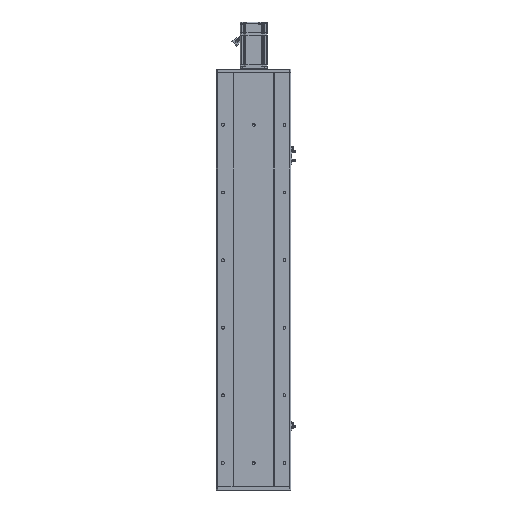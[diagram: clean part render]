
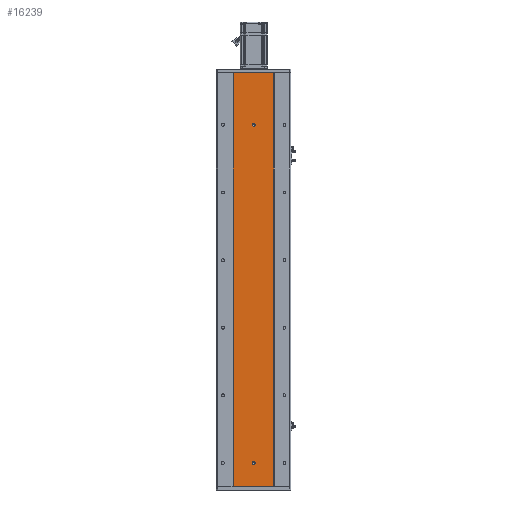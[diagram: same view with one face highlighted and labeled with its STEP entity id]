
A CAD part, front view. The second image highlights one B-rep face of the part: STEP entity #16239.
In plain terms, the highlighted planar face has unit normal (0, -1, 0).
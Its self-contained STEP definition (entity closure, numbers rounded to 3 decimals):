
#96 = EDGE_CURVE ( 'NONE', #29383, #58415, #60200, .T. ) ;
#498 = CARTESIAN_POINT ( 'NONE',  ( -60., 0., 0. ) ) ;
#538 = ORIENTED_EDGE ( 'NONE', *, *, #14519, .F. ) ;
#636 = EDGE_CURVE ( 'NONE', #49667, #14358, #40436, .T. ) ;
#831 = PLANE ( 'NONE',  #38976 ) ;
#1222 = LINE ( 'NONE', #10283, #30692 ) ;
#1851 = AXIS2_PLACEMENT_3D ( 'NONE', #10073, #10506, #67019 ) ;
#2333 = VERTEX_POINT ( 'NONE', #62107 ) ;
#3000 = DIRECTION ( 'NONE',  ( 0., 0., -1. ) ) ;
#3597 = EDGE_LOOP ( 'NONE', ( #47751, #46243 ) ) ;
#5049 = ORIENTED_EDGE ( 'NONE', *, *, #96, .F. ) ;
#5103 = CARTESIAN_POINT ( 'NONE',  ( 60., 0., 0. ) ) ;
#6122 = DIRECTION ( 'NONE',  ( 0., 1., 0. ) ) ;
#7712 = VECTOR ( 'NONE', #58267, 1000. ) ;
#9475 = CARTESIAN_POINT ( 'NONE',  ( 0., 0., 64.5 ) ) ;
#9481 = DIRECTION ( 'NONE',  ( 0., 0., -1. ) ) ;
#10073 = CARTESIAN_POINT ( 'NONE',  ( 0., 0., 1070. ) ) ;
#10283 = CARTESIAN_POINT ( 'NONE',  ( -60., 0., 1224. ) ) ;
#10506 = DIRECTION ( 'NONE',  ( 0., -1., 0. ) ) ;
#10760 = CIRCLE ( 'NONE', #1851, 4. ) ;
#10801 = FACE_BOUND ( 'NONE', #3597, .T. ) ;
#11783 = LINE ( 'NONE', #21668, #7712 ) ;
#12986 = CIRCLE ( 'NONE', #35974, 4. ) ;
#13517 = CARTESIAN_POINT ( 'NONE',  ( 0., 0., 68.5 ) ) ;
#14269 = CARTESIAN_POINT ( 'NONE',  ( -60., 0., 1224. ) ) ;
#14358 = VERTEX_POINT ( 'NONE', #498 ) ;
#14504 = VERTEX_POINT ( 'NONE', #22677 ) ;
#14519 = EDGE_CURVE ( 'NONE', #2333, #67925, #23499, .T. ) ;
#15250 = VERTEX_POINT ( 'NONE', #59747 ) ;
#16239 = ADVANCED_FACE ( 'NONE', ( #10801, #17262, #51871 ), #831, .F. ) ;
#16749 = DIRECTION ( 'NONE',  ( 0., 0., 1. ) ) ;
#17178 = DIRECTION ( 'NONE',  ( 0., -1., 0. ) ) ;
#17262 = FACE_BOUND ( 'NONE', #26833, .T. ) ;
#17464 = CARTESIAN_POINT ( 'NONE',  ( 0., 0., 1074. ) ) ;
#18114 = EDGE_LOOP ( 'NONE', ( #39892, #58264, #63336, #22868 ) ) ;
#19345 = DIRECTION ( 'NONE',  ( 0., 0., -1. ) ) ;
#21095 = CARTESIAN_POINT ( 'NONE',  ( 0., 0., 68.5 ) ) ;
#21668 = CARTESIAN_POINT ( 'NONE',  ( 60., 0., 1224. ) ) ;
#22677 = CARTESIAN_POINT ( 'NONE',  ( 0., 0., 1066. ) ) ;
#22868 = ORIENTED_EDGE ( 'NONE', *, *, #636, .T. ) ;
#23152 = VECTOR ( 'NONE', #50248, 1000. ) ;
#23499 = CIRCLE ( 'NONE', #49023, 4. ) ;
#26833 = EDGE_LOOP ( 'NONE', ( #41331, #538, #41781, #5049, #59912 ) ) ;
#27114 = EDGE_CURVE ( 'NONE', #49066, #14504, #10760, .T. ) ;
#29383 = VERTEX_POINT ( 'NONE', #9475 ) ;
#29655 = CARTESIAN_POINT ( 'NONE',  ( 0., 0., 1070. ) ) ;
#30692 = VECTOR ( 'NONE', #52825, 1000. ) ;
#32122 = EDGE_CURVE ( 'NONE', #14504, #49066, #61773, .T. ) ;
#32466 = CARTESIAN_POINT ( 'NONE',  ( -4., 0., 71.5 ) ) ;
#32629 = CARTESIAN_POINT ( 'NONE',  ( -60., 0., 1224. ) ) ;
#32839 = VECTOR ( 'NONE', #16749, 1000. ) ;
#33177 = EDGE_CURVE ( 'NONE', #33394, #49499, #11783, .T. ) ;
#33394 = VERTEX_POINT ( 'NONE', #36934 ) ;
#35118 = CARTESIAN_POINT ( 'NONE',  ( -4., 0., 71.5 ) ) ;
#35974 = AXIS2_PLACEMENT_3D ( 'NONE', #13517, #55837, #3000 ) ;
#36934 = CARTESIAN_POINT ( 'NONE',  ( 60., 0., 1224. ) ) ;
#37820 = DIRECTION ( 'NONE',  ( 0., 0., -1. ) ) ;
#38042 = CARTESIAN_POINT ( 'NONE',  ( 4., 0., 71.5 ) ) ;
#38976 = AXIS2_PLACEMENT_3D ( 'NONE', #32629, #6122, #63737 ) ;
#39892 = ORIENTED_EDGE ( 'NONE', *, *, #54591, .T. ) ;
#40274 = LINE ( 'NONE', #56455, #44316 ) ;
#40373 = EDGE_CURVE ( 'NONE', #67925, #15250, #50197, .T. ) ;
#40436 = LINE ( 'NONE', #14269, #47020 ) ;
#41331 = ORIENTED_EDGE ( 'NONE', *, *, #40373, .F. ) ;
#41781 = ORIENTED_EDGE ( 'NONE', *, *, #63952, .F. ) ;
#43667 = EDGE_CURVE ( 'NONE', #49667, #33394, #1222, .T. ) ;
#44316 = VECTOR ( 'NONE', #61726, 1000. ) ;
#46243 = ORIENTED_EDGE ( 'NONE', *, *, #27114, .F. ) ;
#46327 = AXIS2_PLACEMENT_3D ( 'NONE', #29655, #55042, #19345 ) ;
#47020 = VECTOR ( 'NONE', #9481, 1000. ) ;
#47751 = ORIENTED_EDGE ( 'NONE', *, *, #32122, .F. ) ;
#47853 = DIRECTION ( 'NONE',  ( 0., 0., -1. ) ) ;
#48562 = CARTESIAN_POINT ( 'NONE',  ( 0., 0., 71.5 ) ) ;
#49023 = AXIS2_PLACEMENT_3D ( 'NONE', #48562, #17178, #37820 ) ;
#49066 = VERTEX_POINT ( 'NONE', #17464 ) ;
#49499 = VERTEX_POINT ( 'NONE', #5103 ) ;
#49667 = VERTEX_POINT ( 'NONE', #53752 ) ;
#50197 = LINE ( 'NONE', #35118, #23152 ) ;
#50248 = DIRECTION ( 'NONE',  ( 0., 0., -1. ) ) ;
#51871 = FACE_OUTER_BOUND ( 'NONE', #18114, .T. ) ;
#52825 = DIRECTION ( 'NONE',  ( 1., 0., 0. ) ) ;
#53319 = LINE ( 'NONE', #38042, #32839 ) ;
#53752 = CARTESIAN_POINT ( 'NONE',  ( -60., 0., 1224. ) ) ;
#54591 = EDGE_CURVE ( 'NONE', #14358, #49499, #40274, .T. ) ;
#55042 = DIRECTION ( 'NONE',  ( 0., -1., 0. ) ) ;
#55837 = DIRECTION ( 'NONE',  ( 0., -1., 0. ) ) ;
#56455 = CARTESIAN_POINT ( 'NONE',  ( -60., 0., 0. ) ) ;
#58264 = ORIENTED_EDGE ( 'NONE', *, *, #33177, .F. ) ;
#58267 = DIRECTION ( 'NONE',  ( 0., 0., -1. ) ) ;
#58415 = VERTEX_POINT ( 'NONE', #60594 ) ;
#59747 = CARTESIAN_POINT ( 'NONE',  ( -4., 0., 68.5 ) ) ;
#59912 = ORIENTED_EDGE ( 'NONE', *, *, #66335, .F. ) ;
#60200 = CIRCLE ( 'NONE', #62484, 4. ) ;
#60594 = CARTESIAN_POINT ( 'NONE',  ( 4., 0., 68.5 ) ) ;
#61726 = DIRECTION ( 'NONE',  ( 1., 0., 0. ) ) ;
#61773 = CIRCLE ( 'NONE', #46327, 4. ) ;
#62107 = CARTESIAN_POINT ( 'NONE',  ( 4., 0., 71.5 ) ) ;
#62484 = AXIS2_PLACEMENT_3D ( 'NONE', #21095, #63422, #47853 ) ;
#63336 = ORIENTED_EDGE ( 'NONE', *, *, #43667, .F. ) ;
#63422 = DIRECTION ( 'NONE',  ( 0., -1., 0. ) ) ;
#63737 = DIRECTION ( 'NONE',  ( 0., 0., 1. ) ) ;
#63952 = EDGE_CURVE ( 'NONE', #58415, #2333, #53319, .T. ) ;
#66335 = EDGE_CURVE ( 'NONE', #15250, #29383, #12986, .T. ) ;
#67019 = DIRECTION ( 'NONE',  ( 0., 0., -1. ) ) ;
#67925 = VERTEX_POINT ( 'NONE', #32466 ) ;
